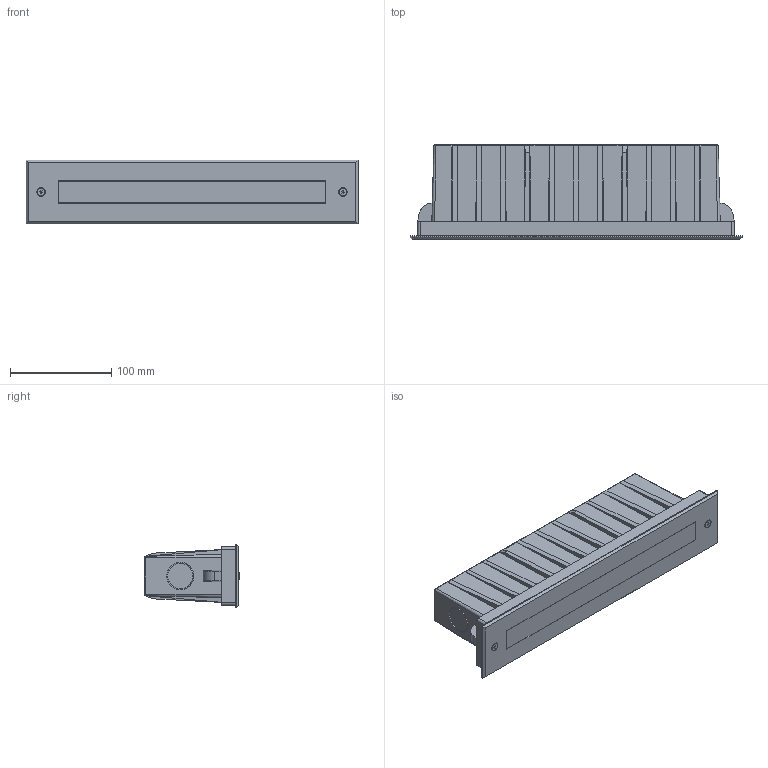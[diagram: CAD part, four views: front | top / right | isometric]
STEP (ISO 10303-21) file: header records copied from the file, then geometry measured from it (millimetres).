
FILE_DESCRIPTION((''),'2;1');
FILE_NAME('B2FL0657_ASM','2017-06-28T',('Administrator'),(''),'PRO/ENGINEER BY PARAMETRIC TECHNOLOGY CORPORATION, 2014000','PRO/ENGINEER BY PARAMETRIC TECHNOLOGY CORPORATION, 2014000','');
FILE_SCHEMA(('CONFIG_CONTROL_DESIGN'));
Products named in the file (19): CROSS_RECESSED_COUNTERSUN-42282; 2BL06___; CROSS_RECESSED_COUNTERSUN-70846; 2BL-B__; CROSS_RECESSED_PAN_HEAD_SCREWS_; PRODUCT_38997; 2BL-E; PGB9___; SCREW-M12_1; N-H; COVER_1; DRIVER-BOX-2; 2FL____ASM; 2BL-D__; HEXAGON_SOCKET_COUNTERSUNK_HEAD; 2BL-B___; __1_B2FL0656__________ASM; C1FL0657_ASM; B2FL0657_ASM
Assembly tree (37 placements, depth 4):
  B2FL0657_ASM
    C1FL0657_ASM
      CROSS_RECESSED_COUNTERSUN-42282  x7
      2BL06___
      CROSS_RECESSED_COUNTERSUN-70846  x10
      2BL-B__
      CROSS_RECESSED_PAN_HEAD_SCREWS_  x2
      PRODUCT_38997  x2
      2BL-E
      PGB9___
      2FL____ASM
        SCREW-M12_1  x2
        N-H
        COVER_1
        DRIVER-BOX-2
      2BL-D__
      HEXAGON_SOCKET_COUNTERSUNK_HEAD  x2
      2BL-B___
      __1_B2FL0656__________ASM
Bounding box: 328 x 93.18 x 63 mm (x, y, z)
Volume: 491496.2 mm3; surface area: 385014.7 mm2
Topology: 34 solids, 34 shells, 2327 faces, 6201 edges, 3981 vertices
Faces by surface type: plane 1336, cylinder 720, cone 173, bspline 34, sphere 29, torus 18, extrusion 17
Entity records: 65181 total; most frequent: CARTESIAN_POINT 18350, ORIENTED_EDGE 9868, DIRECTION 9303, EDGE_CURVE 4934, VECTOR 3415, LINE 3398, VERTEX_POINT 3208, AXIS2_PLACEMENT_3D 2944
